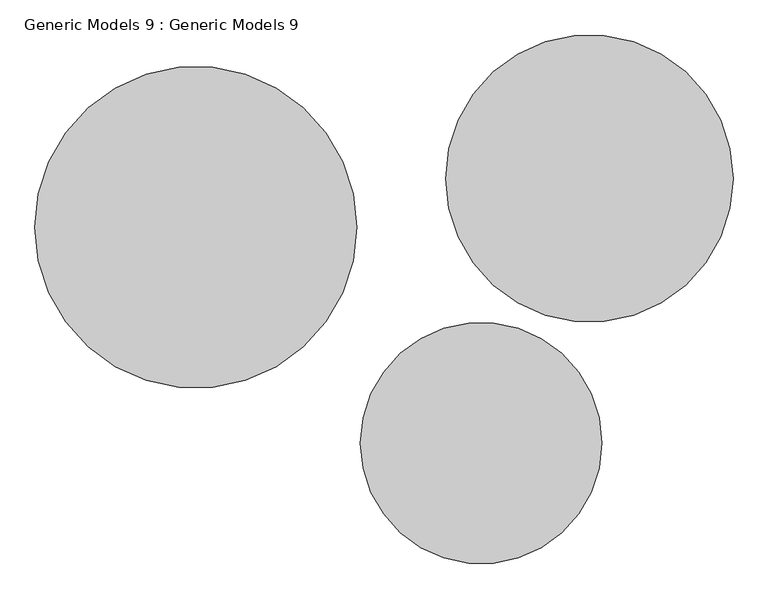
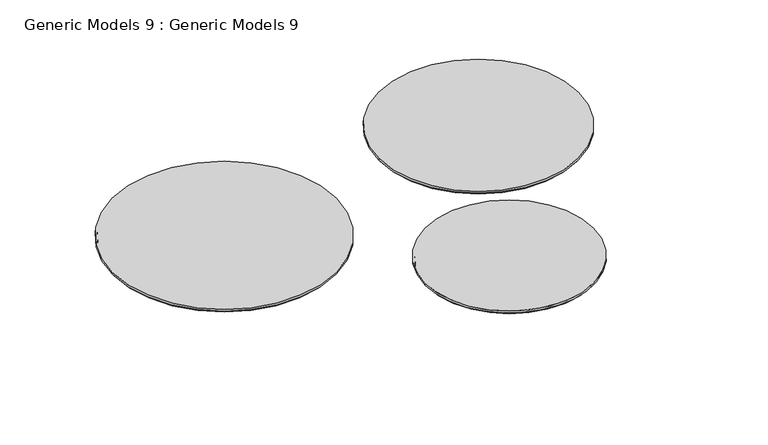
"""IFC4 building model written with IfcOpenShell, lengths in millimetres: proxy geometry, Generic Models 9 : Generic Models 9."""

from ifc_helpers import new_model, si_unit, frame, origin, place, context, project, spatial, circle_curve, source, transform, mapped, element, save
from ifc_brep_helpers import plane_surface, cylinder_surface, advanced_brep


def generic_models_9_generic_models_9_8a79f7df(model_context):
    return source(origin(), model_context, "Body", "AdvancedBrep", [
        advanced_brep(
        [(16607.826428, -2567.3369079, 100.0), (20807.826428, -2567.3369079, 100.0), (16647.826428, -2567.3369079, 0.0), (20767.826428, -2567.3369079, 0.0), (16607.826428, -2567.3369079, 50.0), (20807.826428, -2567.3369079, 50.0), (16647.826428, -2567.3369079, 50.0), (20767.826428, -2567.3369079, 50.0)],
        [
            (0, 1, circle_curve(frame((18707.826428, -2567.3369079, 100.0), z_axis=(0.0, 0.0, 1.0), x_axis=(1.0, 0.0, 0.0)), 2100.0)),
            (1, 0, circle_curve(frame((18707.826428, -2567.3369079, 100.0), z_axis=(0.0, 0.0, 1.0), x_axis=(1.0, 0.0, 0.0)), 2100.0)),
            (2, 3, circle_curve(frame((18707.826428, -2567.3369079, 0.0), z_axis=(0.0, 0.0, -1.0), x_axis=(1.0, 0.0, 0.0)), 2060.0)),
            (3, 2, circle_curve(frame((18707.826428, -2567.3369079, 0.0), z_axis=(0.0, 0.0, -1.0), x_axis=(1.0, 0.0, 0.0)), 2060.0)),
            (0, 4),
            (4, 5, circle_curve(frame((18707.826428, -2567.3369079, 50.0), z_axis=(0.0, 0.0, 1.0), x_axis=(1.0, 0.0, 0.0)), 2100.0)),
            (5, 1),
            (5, 4, circle_curve(frame((18707.826428, -2567.3369079, 50.0), z_axis=(0.0, 0.0, 1.0), x_axis=(1.0, 0.0, 0.0)), 2100.0)),
            (6, 7, circle_curve(frame((18707.826428, -2567.3369079, 50.0), z_axis=(0.0, 0.0, 1.0), x_axis=(1.0, 0.0, 0.0)), 2060.0)),
            (7, 6, circle_curve(frame((18707.826428, -2567.3369079, 50.0), z_axis=(0.0, 0.0, 1.0), x_axis=(1.0, 0.0, 0.0)), 2060.0)),
            (7, 3),
            (2, 6),
        ],
        [
            plane_surface(frame((20807.826428, -2567.3369079, 100.0), z_axis=(0.0, 0.0, 1.0), x_axis=(0.0, 1.0, 0.0))),
            plane_surface(frame((20807.826428, -2567.3369079, 0.0), z_axis=(0.0, 0.0, -1.0), x_axis=(0.0, -1.0, 0.0))),
            cylinder_surface(frame((18707.826428, -2567.3369079, 0.0), z_axis=(0.0, 0.0, 1.0), x_axis=(1.0, 0.0, 0.0)), 2100.0),
            plane_surface(frame((20807.826428, -2567.3369079, 50.0), z_axis=(0.0, 0.0, -1.0), x_axis=(0.0, 1.0, 0.0))),
            cylinder_surface(frame((18707.826428, -2567.3369079, 0.0), z_axis=(0.0, 0.0, -1.0), x_axis=(1.0, 0.0, 0.0)), 2060.0),
        ],
        [
            (0, [[1, 2]]),
            (1, [[3, 4]]),
            (2, [[-1, 5, 6, 7]]),
            (2, [[-2, -7, 8, -5]]),
            (3, [[-6, -8], [9, 10]]),
            (4, [[-10, 11, -3, 12]]),
            (4, [[-9, -12, -4, -11]]),
        ],
    ),
        advanced_brep(
        [(18093.2032718, 2036.2910331, 100.0), (23093.2032718, 2036.2910331, 100.0), (18133.2032718, 2036.2910331, 0.0), (23053.2032718, 2036.2910331, 0.0), (18093.2032718, 2036.2910331, 50.0), (23093.2032718, 2036.2910331, 50.0), (18133.2032718, 2036.2910331, 50.0), (23053.2032718, 2036.2910331, 50.0)],
        [
            (0, 1, circle_curve(frame((20593.2032718, 2036.2910331, 100.0), z_axis=(0.0, 0.0, 1.0), x_axis=(1.0, 0.0, 0.0)), 2500.0)),
            (1, 0, circle_curve(frame((20593.2032718, 2036.2910331, 100.0), z_axis=(0.0, 0.0, 1.0), x_axis=(1.0, 0.0, 0.0)), 2500.0)),
            (2, 3, circle_curve(frame((20593.2032718, 2036.2910331, 0.0), z_axis=(0.0, 0.0, -1.0), x_axis=(1.0, 0.0, 0.0)), 2460.0)),
            (3, 2, circle_curve(frame((20593.2032718, 2036.2910331, 0.0), z_axis=(0.0, 0.0, -1.0), x_axis=(1.0, 0.0, 0.0)), 2460.0)),
            (0, 4),
            (4, 5, circle_curve(frame((20593.2032718, 2036.2910331, 50.0), z_axis=(0.0, 0.0, 1.0), x_axis=(1.0, 0.0, 0.0)), 2500.0)),
            (5, 1),
            (5, 4, circle_curve(frame((20593.2032718, 2036.2910331, 50.0), z_axis=(0.0, 0.0, 1.0), x_axis=(1.0, 0.0, 0.0)), 2500.0)),
            (6, 7, circle_curve(frame((20593.2032718, 2036.2910331, 50.0), z_axis=(0.0, 0.0, 1.0), x_axis=(1.0, 0.0, 0.0)), 2460.0)),
            (7, 6, circle_curve(frame((20593.2032718, 2036.2910331, 50.0), z_axis=(0.0, 0.0, 1.0), x_axis=(1.0, 0.0, 0.0)), 2460.0)),
            (7, 3),
            (2, 6),
        ],
        [
            plane_surface(frame((23093.2032718, 2036.2910331, 100.0), z_axis=(0.0, 0.0, 1.0), x_axis=(0.0, 1.0, 0.0))),
            plane_surface(frame((23093.2032718, 2036.2910331, 0.0), z_axis=(0.0, 0.0, -1.0), x_axis=(0.0, -1.0, 0.0))),
            cylinder_surface(frame((20593.2032718, 2036.2910331, 0.0), z_axis=(0.0, 0.0, 1.0), x_axis=(1.0, 0.0, 0.0)), 2500.0),
            plane_surface(frame((23093.2032718, 2036.2910331, 50.0), z_axis=(0.0, 0.0, -1.0), x_axis=(0.0, 1.0, 0.0))),
            cylinder_surface(frame((20593.2032718, 2036.2910331, 0.0), z_axis=(0.0, 0.0, -1.0), x_axis=(1.0, 0.0, 0.0)), 2460.0),
        ],
        [
            (0, [[1, 2]]),
            (1, [[3, 4]]),
            (2, [[-1, 5, 6, 7]]),
            (2, [[-2, -7, 8, -5]]),
            (3, [[-6, -8], [9, 10]]),
            (4, [[-10, 11, -3, 12]]),
            (4, [[-9, -12, -4, -11]]),
        ],
    ),
        advanced_brep(
        [(10941.3483493, 1185.9819744, 100.0), (16541.3483493, 1185.9819744, 100.0), (10981.3483493, 1185.9819744, 0.0), (16501.3483493, 1185.9819744, 0.0), (10941.3483493, 1185.9819744, 50.0), (16541.3483493, 1185.9819744, 50.0), (10981.3483493, 1185.9819744, 50.0), (16501.3483493, 1185.9819744, 50.0)],
        [
            (0, 1, circle_curve(frame((13741.3483493, 1185.9819744, 100.0), z_axis=(0.0, 0.0, 1.0), x_axis=(1.0, 0.0, 0.0)), 2800.0)),
            (1, 0, circle_curve(frame((13741.3483493, 1185.9819744, 100.0), z_axis=(0.0, 0.0, 1.0), x_axis=(1.0, 0.0, 0.0)), 2800.0)),
            (2, 3, circle_curve(frame((13741.3483493, 1185.9819744, 0.0), z_axis=(0.0, 0.0, -1.0), x_axis=(1.0, 0.0, 0.0)), 2760.0)),
            (3, 2, circle_curve(frame((13741.3483493, 1185.9819744, 0.0), z_axis=(0.0, 0.0, -1.0), x_axis=(1.0, 0.0, 0.0)), 2760.0)),
            (0, 4),
            (4, 5, circle_curve(frame((13741.3483493, 1185.9819744, 50.0), z_axis=(0.0, 0.0, 1.0), x_axis=(1.0, 0.0, 0.0)), 2800.0)),
            (5, 1),
            (5, 4, circle_curve(frame((13741.3483493, 1185.9819744, 50.0), z_axis=(0.0, 0.0, 1.0), x_axis=(1.0, 0.0, 0.0)), 2800.0)),
            (6, 7, circle_curve(frame((13741.3483493, 1185.9819744, 50.0), z_axis=(0.0, 0.0, 1.0), x_axis=(1.0, 0.0, 0.0)), 2760.0)),
            (7, 6, circle_curve(frame((13741.3483493, 1185.9819744, 50.0), z_axis=(0.0, 0.0, 1.0), x_axis=(1.0, 0.0, 0.0)), 2760.0)),
            (7, 3),
            (2, 6),
        ],
        [
            plane_surface(frame((16541.3483493, 1185.9819744, 100.0), z_axis=(0.0, 0.0, 1.0), x_axis=(0.0, 1.0, 0.0))),
            plane_surface(frame((16541.3483493, 1185.9819744, 0.0), z_axis=(0.0, 0.0, -1.0), x_axis=(0.0, -1.0, 0.0))),
            cylinder_surface(frame((13741.3483493, 1185.9819744, 0.0), z_axis=(0.0, 0.0, 1.0), x_axis=(1.0, 0.0, 0.0)), 2800.0),
            plane_surface(frame((16541.3483493, 1185.9819744, 50.0), z_axis=(0.0, 0.0, -1.0), x_axis=(0.0, 1.0, 0.0))),
            cylinder_surface(frame((13741.3483493, 1185.9819744, 0.0), z_axis=(0.0, 0.0, -1.0), x_axis=(1.0, 0.0, 0.0)), 2760.0),
        ],
        [
            (0, [[1, 2]]),
            (1, [[3, 4]]),
            (2, [[-1, 5, 6, 7]]),
            (2, [[-2, -7, 8, -5]]),
            (3, [[-6, -8], [9, 10]]),
            (4, [[-10, 11, -3, 12]]),
            (4, [[-9, -12, -4, -11]]),
        ],
    ),
    ])


if __name__ == "__main__":
    model = new_model("IFC4")
    model_context = context("Model", 3, world=origin())
    ifc_project = project(units=[si_unit("LENGTHUNIT", "METRE", prefix="MILLI")], contexts=[model_context])
    site = spatial("IfcSite", under=ifc_project)
    building = spatial("IfcBuilding", under=site)
    placement = place(None, origin())
    generic_models_9_generic_models_9_shape = generic_models_9_generic_models_9_8a79f7df(model_context)
    element("IfcBuildingElementProxy", 1, Name="Generic Models 9 : Generic Models 9", ObjectType="Generic Models 9 : Generic Models 9", at=placement, inside=building, context=model_context, shape_type="MappedRepresentation", body=[
        mapped(generic_models_9_generic_models_9_shape, transform((0.0, 0.0, 0.0), x_axis=(1.0, 0.0, 0.0), y_axis=(0.0, 1.0, 0.0), z_axis=(0.0, 0.0, 1.0))),
    ])
    save(model, "model.ifc")
